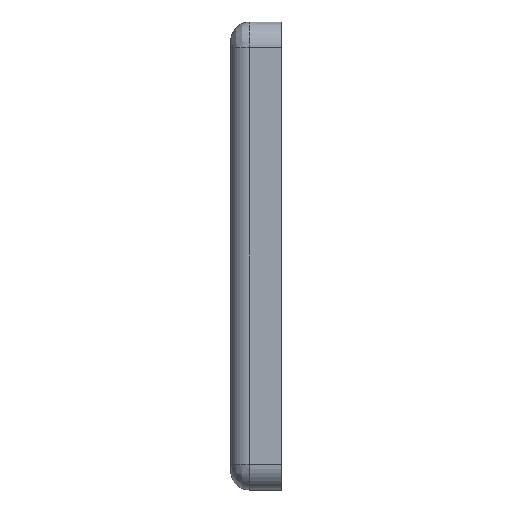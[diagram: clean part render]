
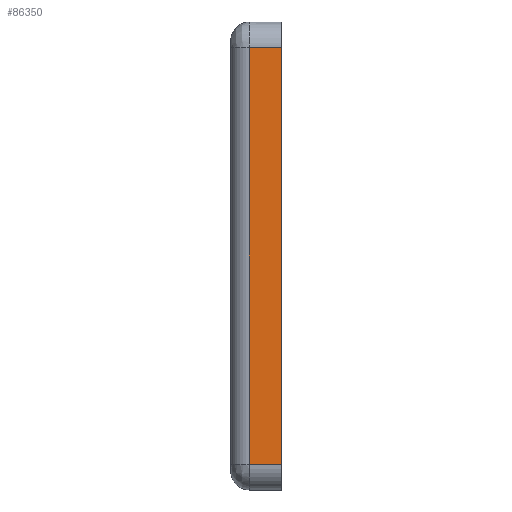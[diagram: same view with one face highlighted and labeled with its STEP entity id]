
A CAD part, left-side view. The second image highlights one B-rep face of the part: STEP entity #86350.
In plain terms, the highlighted planar face has unit normal (-1, 0, 0).
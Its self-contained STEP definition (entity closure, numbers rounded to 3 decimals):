
#4464 = DIRECTION ( 'NONE',  ( 0., -1., 0. ) ) ;
#5564 = VECTOR ( 'NONE', #11840, 39.37 ) ;
#6975 = CARTESIAN_POINT ( 'NONE',  ( -12.713, 0., 11.317 ) ) ;
#7413 = CARTESIAN_POINT ( 'NONE',  ( -12.713, 1.742, 11.317 ) ) ;
#11840 = DIRECTION ( 'NONE',  ( 0., 0., -1. ) ) ;
#16971 = ORIENTED_EDGE ( 'NONE', *, *, #48017, .T. ) ;
#19966 = LINE ( 'NONE', #52144, #36173 ) ;
#23146 = EDGE_CURVE ( 'NONE', #36584, #44758, #66016, .T. ) ;
#25452 = CARTESIAN_POINT ( 'NONE',  ( -12.713, 1.742, -11.317 ) ) ;
#28225 = EDGE_CURVE ( 'NONE', #52924, #36584, #19966, .T. ) ;
#29305 = VECTOR ( 'NONE', #63763, 39.37 ) ;
#32213 = ORIENTED_EDGE ( 'NONE', *, *, #54445, .T. ) ;
#32810 = CARTESIAN_POINT ( 'NONE',  ( -12.713, 0., -11.317 ) ) ;
#34121 = PLANE ( 'NONE',  #85652 ) ;
#36173 = VECTOR ( 'NONE', #4464, 39.37 ) ;
#36584 = VERTEX_POINT ( 'NONE', #6975 ) ;
#38016 = LINE ( 'NONE', #25452, #5564 ) ;
#38547 = DIRECTION ( 'NONE',  ( 0., -1., 0. ) ) ;
#41062 = DIRECTION ( 'NONE',  ( -1., 0., 0. ) ) ;
#44758 = VERTEX_POINT ( 'NONE', #32810 ) ;
#45913 = ORIENTED_EDGE ( 'NONE', *, *, #28225, .F. ) ;
#48017 = EDGE_CURVE ( 'NONE', #52924, #88426, #38016, .T. ) ;
#52144 = CARTESIAN_POINT ( 'NONE',  ( -12.713, 0.25, 11.317 ) ) ;
#52924 = VERTEX_POINT ( 'NONE', #7413 ) ;
#53841 = VECTOR ( 'NONE', #38547, 39.37 ) ;
#54445 = EDGE_CURVE ( 'NONE', #88426, #44758, #70035, .T. ) ;
#63763 = DIRECTION ( 'NONE',  ( 0., 0., -1. ) ) ;
#66016 = LINE ( 'NONE', #84678, #29305 ) ;
#69479 = ORIENTED_EDGE ( 'NONE', *, *, #23146, .F. ) ;
#70035 = LINE ( 'NONE', #79929, #53841 ) ;
#73514 = CARTESIAN_POINT ( 'NONE',  ( -12.713, 1.742, -11.317 ) ) ;
#75097 = FACE_OUTER_BOUND ( 'NONE', #78385, .T. ) ;
#75472 = CARTESIAN_POINT ( 'NONE',  ( -12.713, 0.25, 11.317 ) ) ;
#78385 = EDGE_LOOP ( 'NONE', ( #45913, #16971, #32213, #69479 ) ) ;
#79929 = CARTESIAN_POINT ( 'NONE',  ( -12.713, 0.25, -11.317 ) ) ;
#84678 = CARTESIAN_POINT ( 'NONE',  ( -12.713, 0., 11.317 ) ) ;
#85652 = AXIS2_PLACEMENT_3D ( 'NONE', #75472, #41062, #89396 ) ;
#86350 = ADVANCED_FACE ( 'NONE', ( #75097 ), #34121, .T. ) ;
#88426 = VERTEX_POINT ( 'NONE', #73514 ) ;
#89396 = DIRECTION ( 'NONE',  ( 0., 0., 1. ) ) ;
